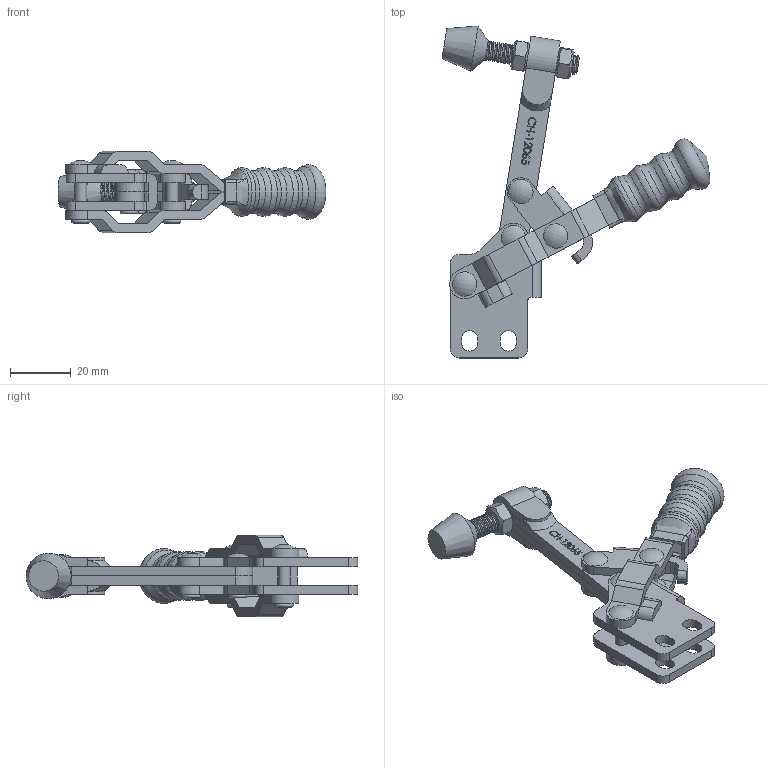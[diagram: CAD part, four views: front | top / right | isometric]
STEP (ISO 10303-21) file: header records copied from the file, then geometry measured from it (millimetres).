
FILE_DESCRIPTION(/* description */ ('STEP AP203'),/* implementation_level */ '2;1');
FILE_NAME(/* name */ 'D:\Vault_2016\Projekty\NASZ KATALOG\CLAMPTEK\STRONA\Vertical toggle clamp\CH-12065\CH-12065_OTWARTY.stp',/* time_stamp */ '2019-01-18T12:49:41+01:00',/* author */ ('CADENGINEERING4'),/* organization */ ('Î¢ÈíÖÐ¹ú'),/* preprocessor_version */ 'ST-DEVELOPER v17.2',/* originating_system */ 'Autodesk Inventor 2019',/* authorisation */ '');
FILE_SCHEMA (('AUTOMOTIVE_DESIGN { 1 0 10303 214 3 1 1 }'));
Length unit declared in the file: millimetre
Products named in the file (10): CH-12065_OTWARTY; CH-12055-01 STRAIGHT BASE; CH-12050-03 STRAIGHT HANDLE; CH-12050-04 CONNECTING-PLATE; CH-12050-05; CH-12050-06; CH-12050-07; CH-FC-14134 SPINDLE SUPPLIED; CH-FC-14134 Nut; CH-12065-02 SOLID BAR_Ä¬ÈÏ_°´¼
Ó¹¤_
Assembly tree (12 placements, depth 2):
  CH-12065_OTWARTY
    CH-12055-01 STRAIGHT BASE
    CH-12050-03 STRAIGHT HANDLE
    CH-12050-04 CONNECTING-PLATE
    CH-12050-05
    CH-12050-06  x2
    CH-12050-07  x2
    CH-FC-14134 Nut  x2
    CH-FC-14134 SPINDLE SUPPLIED
    CH-12065-02 SOLID BAR_Ä¬ÈÏ_°´¼
Ó¹¤_
Bounding box: 88.04 x 109.06 x 26.8 mm (x, y, z)
Volume: 26677.8 mm3; surface area: 23892.9 mm2
Topology: 17 solids, 19 shells, 653 faces, 1807 edges, 1221 vertices
Faces by surface type: plane 288, bspline 189, cylinder 129, cone 27, torus 16, sphere 4
Full cylindrical faces by diameter (mm): 1.219 x1, 1.411 x1, 4 x20, 5.1 x6, 6.4 x26
Entity records: 38127 total; most frequent: CARTESIAN_POINT 23016, ORIENTED_EDGE 3422, DIRECTION 2438, EDGE_CURVE 1711, VERTEX_POINT 1157, LINE 942, VECTOR 942, AXIS2_PLACEMENT_3D 748
